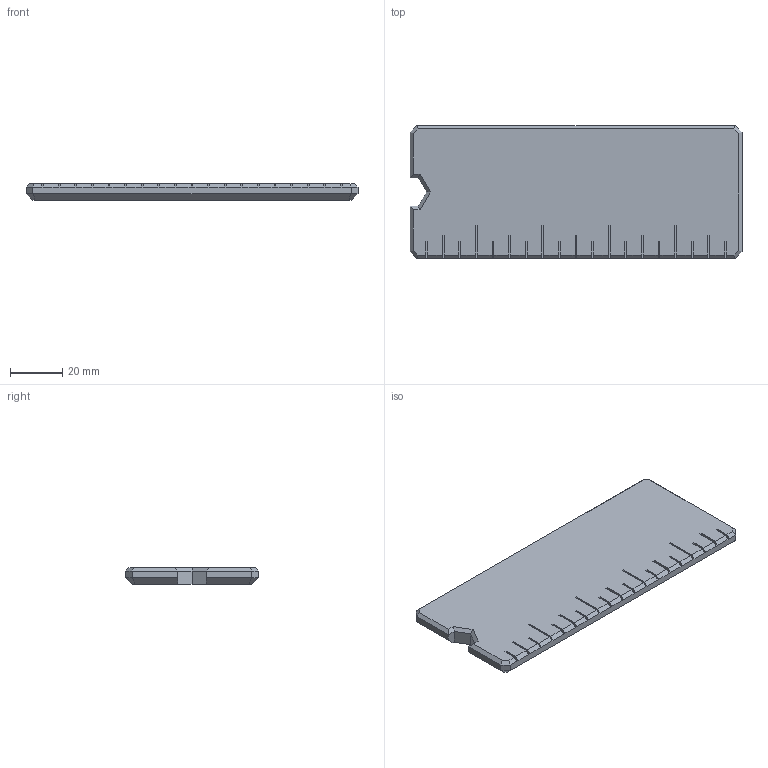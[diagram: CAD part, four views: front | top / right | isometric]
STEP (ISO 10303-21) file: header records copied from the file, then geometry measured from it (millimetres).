
FILE_DESCRIPTION(/* description */ ('','CAx-IF Rec.Pracs.---Representation and Presentation of Product Manufacturing Information (PMI)---4.0---2014-10-13'),/* implementation_level */ '2;1');
FILE_NAME(/* name */ 'Magnetic Stud Finer v1.step',/* time_stamp */ '2025-03-11T21:31:06-07:00',/* author */ (''),/* organization */ (''),/* preprocessor_version */ 'ST-DEVELOPER v20',/* originating_system */ 'Autodesk Translation Framework v13.20.0.188',/* authorisation */ '');
FILE_SCHEMA (('AP242_MANAGED_MODEL_BASED_3D_ENGINEERING_MIM_LF { 1 0 10303 442 1 1 4 }'));
Length unit declared in the file: inch
Products named in the file (1): Magnetic Stud Finer
Bounding box: 127 x 50.8 x 6.35 mm (x, y, z)
Volume: 39074.5 mm3; surface area: 14637.9 mm2
Topology: 1 solids, 1 shells, 132 faces, 331 edges, 201 vertices
Faces by surface type: plane 132
Entity records: 3818 total; most frequent: CARTESIAN_POINT 665, ORIENTED_EDGE 662, DIRECTION 597, LINE 331, VECTOR 331, EDGE_CURVE 331, VERTEX_POINT 201, AXIS2_PLACEMENT_3D 133
